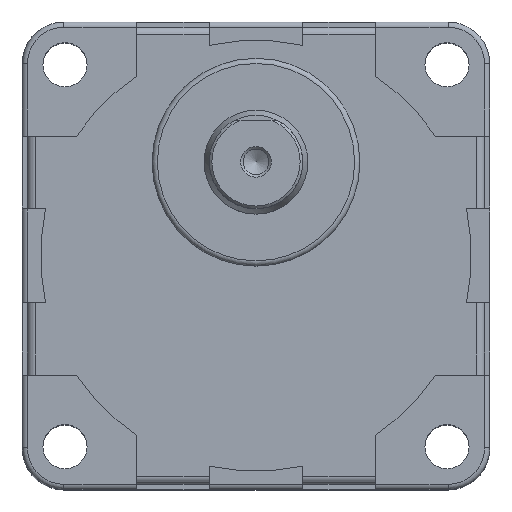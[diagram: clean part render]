
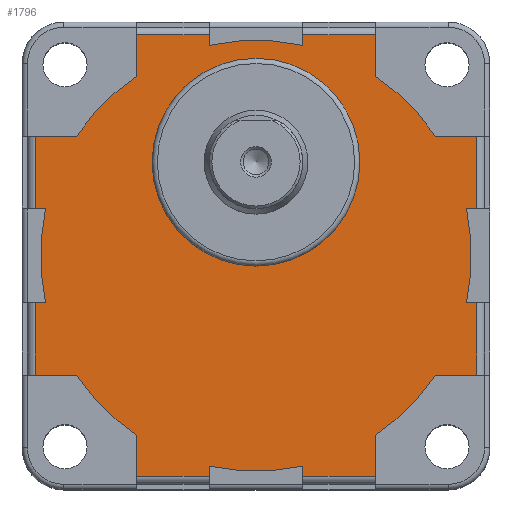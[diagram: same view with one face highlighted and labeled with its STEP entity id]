
A CAD part, top view. The second image highlights one B-rep face of the part: STEP entity #1796.
In plain terms, the highlighted planar face has unit normal (0, 0, 1).
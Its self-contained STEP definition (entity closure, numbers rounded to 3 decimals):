
#45=FACE_BOUND('',#334,.T.);
#120=CIRCLE('',#1923,20.);
#125=CIRCLE('',#1933,41.5);
#126=CIRCLE('',#1934,41.5);
#127=CIRCLE('',#1935,41.5);
#128=CIRCLE('',#1936,41.5);
#129=CIRCLE('',#1937,41.5);
#130=CIRCLE('',#1938,41.5);
#131=CIRCLE('',#1939,41.5);
#132=CIRCLE('',#1940,41.5);
#210=FACE_OUTER_BOUND('',#333,.T.);
#333=EDGE_LOOP('',(#1270,#1271,#1272,#1273,#1274,#1275,#1276,#1277,#1278,
#1279,#1280,#1281,#1282,#1283,#1284,#1285,#1286,#1287,#1288,#1289,#1290,
#1291,#1292,#1293,#1294,#1295,#1296,#1297,#1298,#1299,#1300,#1301));
#334=EDGE_LOOP('',(#1302));
#432=LINE('',#2738,#599);
#436=LINE('',#2750,#603);
#438=LINE('',#2756,#605);
#439=LINE('',#2760,#606);
#440=LINE('',#2762,#607);
#441=LINE('',#2764,#608);
#442=LINE('',#2768,#609);
#443=LINE('',#2770,#610);
#444=LINE('',#2772,#611);
#445=LINE('',#2776,#612);
#446=LINE('',#2778,#613);
#447=LINE('',#2780,#614);
#448=LINE('',#2784,#615);
#449=LINE('',#2786,#616);
#450=LINE('',#2788,#617);
#451=LINE('',#2792,#618);
#452=LINE('',#2794,#619);
#453=LINE('',#2796,#620);
#454=LINE('',#2800,#621);
#455=LINE('',#2802,#622);
#456=LINE('',#2804,#623);
#457=LINE('',#2807,#624);
#458=LINE('',#2809,#625);
#459=LINE('',#2812,#626);
#599=VECTOR('',#2184,14.);
#603=VECTOR('',#2194,14.);
#605=VECTOR('',#2200,7.957);
#606=VECTOR('',#2203,7.957);
#607=VECTOR('',#2204,14.);
#608=VECTOR('',#2205,1.988);
#609=VECTOR('',#2208,1.988);
#610=VECTOR('',#2209,14.);
#611=VECTOR('',#2210,7.957);
#612=VECTOR('',#2213,7.957);
#613=VECTOR('',#2214,14.);
#614=VECTOR('',#2215,1.988);
#615=VECTOR('',#2218,1.988);
#616=VECTOR('',#2219,14.);
#617=VECTOR('',#2220,7.957);
#618=VECTOR('',#2223,7.957);
#619=VECTOR('',#2224,14.);
#620=VECTOR('',#2225,1.988);
#621=VECTOR('',#2228,1.988);
#622=VECTOR('',#2229,14.);
#623=VECTOR('',#2230,7.957);
#624=VECTOR('',#2233,7.957);
#625=VECTOR('',#2234,1.988);
#626=VECTOR('',#2237,1.988);
#791=VERTEX_POINT('',#2727);
#792=VERTEX_POINT('',#2731);
#795=VERTEX_POINT('',#2736);
#799=VERTEX_POINT('',#2747);
#800=VERTEX_POINT('',#2749);
#802=VERTEX_POINT('',#2755);
#803=VERTEX_POINT('',#2757);
#804=VERTEX_POINT('',#2759);
#805=VERTEX_POINT('',#2761);
#806=VERTEX_POINT('',#2763);
#807=VERTEX_POINT('',#2765);
#808=VERTEX_POINT('',#2767);
#809=VERTEX_POINT('',#2769);
#810=VERTEX_POINT('',#2771);
#811=VERTEX_POINT('',#2773);
#812=VERTEX_POINT('',#2775);
#813=VERTEX_POINT('',#2777);
#814=VERTEX_POINT('',#2779);
#815=VERTEX_POINT('',#2781);
#816=VERTEX_POINT('',#2783);
#817=VERTEX_POINT('',#2785);
#818=VERTEX_POINT('',#2787);
#819=VERTEX_POINT('',#2789);
#820=VERTEX_POINT('',#2791);
#821=VERTEX_POINT('',#2793);
#822=VERTEX_POINT('',#2795);
#823=VERTEX_POINT('',#2797);
#824=VERTEX_POINT('',#2799);
#825=VERTEX_POINT('',#2801);
#826=VERTEX_POINT('',#2803);
#827=VERTEX_POINT('',#2805);
#828=VERTEX_POINT('',#2808);
#829=VERTEX_POINT('',#2810);
#973=EDGE_CURVE('',#791,#791,#120,.T.);
#977=EDGE_CURVE('',#795,#792,#432,.T.);
#982=EDGE_CURVE('',#799,#800,#436,.T.);
#985=EDGE_CURVE('',#795,#802,#438,.T.);
#986=EDGE_CURVE('',#803,#802,#125,.T.);
#987=EDGE_CURVE('',#804,#803,#439,.T.);
#988=EDGE_CURVE('',#805,#804,#440,.T.);
#989=EDGE_CURVE('',#806,#805,#441,.T.);
#990=EDGE_CURVE('',#807,#806,#126,.T.);
#991=EDGE_CURVE('',#807,#808,#442,.T.);
#992=EDGE_CURVE('',#809,#808,#443,.T.);
#993=EDGE_CURVE('',#809,#810,#444,.T.);
#994=EDGE_CURVE('',#811,#810,#127,.T.);
#995=EDGE_CURVE('',#812,#811,#445,.T.);
#996=EDGE_CURVE('',#813,#812,#446,.T.);
#997=EDGE_CURVE('',#814,#813,#447,.T.);
#998=EDGE_CURVE('',#815,#814,#128,.T.);
#999=EDGE_CURVE('',#815,#816,#448,.T.);
#1000=EDGE_CURVE('',#817,#816,#449,.T.);
#1001=EDGE_CURVE('',#817,#818,#450,.T.);
#1002=EDGE_CURVE('',#819,#818,#129,.T.);
#1003=EDGE_CURVE('',#820,#819,#451,.T.);
#1004=EDGE_CURVE('',#821,#820,#452,.T.);
#1005=EDGE_CURVE('',#822,#821,#453,.T.);
#1006=EDGE_CURVE('',#823,#822,#130,.T.);
#1007=EDGE_CURVE('',#823,#824,#454,.T.);
#1008=EDGE_CURVE('',#825,#824,#455,.T.);
#1009=EDGE_CURVE('',#825,#826,#456,.T.);
#1010=EDGE_CURVE('',#827,#826,#131,.T.);
#1011=EDGE_CURVE('',#800,#827,#457,.T.);
#1012=EDGE_CURVE('',#828,#799,#458,.T.);
#1013=EDGE_CURVE('',#829,#828,#132,.T.);
#1014=EDGE_CURVE('',#829,#792,#459,.T.);
#1270=ORIENTED_EDGE('',*,*,#977,.F.);
#1271=ORIENTED_EDGE('',*,*,#985,.T.);
#1272=ORIENTED_EDGE('',*,*,#986,.F.);
#1273=ORIENTED_EDGE('',*,*,#987,.F.);
#1274=ORIENTED_EDGE('',*,*,#988,.F.);
#1275=ORIENTED_EDGE('',*,*,#989,.F.);
#1276=ORIENTED_EDGE('',*,*,#990,.F.);
#1277=ORIENTED_EDGE('',*,*,#991,.T.);
#1278=ORIENTED_EDGE('',*,*,#992,.F.);
#1279=ORIENTED_EDGE('',*,*,#993,.T.);
#1280=ORIENTED_EDGE('',*,*,#994,.F.);
#1281=ORIENTED_EDGE('',*,*,#995,.F.);
#1282=ORIENTED_EDGE('',*,*,#996,.F.);
#1283=ORIENTED_EDGE('',*,*,#997,.F.);
#1284=ORIENTED_EDGE('',*,*,#998,.F.);
#1285=ORIENTED_EDGE('',*,*,#999,.T.);
#1286=ORIENTED_EDGE('',*,*,#1000,.F.);
#1287=ORIENTED_EDGE('',*,*,#1001,.T.);
#1288=ORIENTED_EDGE('',*,*,#1002,.F.);
#1289=ORIENTED_EDGE('',*,*,#1003,.F.);
#1290=ORIENTED_EDGE('',*,*,#1004,.F.);
#1291=ORIENTED_EDGE('',*,*,#1005,.F.);
#1292=ORIENTED_EDGE('',*,*,#1006,.F.);
#1293=ORIENTED_EDGE('',*,*,#1007,.T.);
#1294=ORIENTED_EDGE('',*,*,#1008,.F.);
#1295=ORIENTED_EDGE('',*,*,#1009,.T.);
#1296=ORIENTED_EDGE('',*,*,#1010,.F.);
#1297=ORIENTED_EDGE('',*,*,#1011,.F.);
#1298=ORIENTED_EDGE('',*,*,#982,.F.);
#1299=ORIENTED_EDGE('',*,*,#1012,.F.);
#1300=ORIENTED_EDGE('',*,*,#1013,.F.);
#1301=ORIENTED_EDGE('',*,*,#1014,.T.);
#1302=ORIENTED_EDGE('',*,*,#973,.F.);
#1729=PLANE('',#1932);
#1796=ADVANCED_FACE('',(#210,#45),#1729,.T.);
#1923=AXIS2_PLACEMENT_3D('',#2728,#2173,#2174);
#1932=AXIS2_PLACEMENT_3D('',#2754,#2198,#2199);
#1933=AXIS2_PLACEMENT_3D('',#2758,#2201,#2202);
#1934=AXIS2_PLACEMENT_3D('',#2766,#2206,#2207);
#1935=AXIS2_PLACEMENT_3D('',#2774,#2211,#2212);
#1936=AXIS2_PLACEMENT_3D('',#2782,#2216,#2217);
#1937=AXIS2_PLACEMENT_3D('',#2790,#2221,#2222);
#1938=AXIS2_PLACEMENT_3D('',#2798,#2226,#2227);
#1939=AXIS2_PLACEMENT_3D('',#2806,#2231,#2232);
#1940=AXIS2_PLACEMENT_3D('',#2811,#2235,#2236);
#2173=DIRECTION('center_axis',(0.,0.,1.));
#2174=DIRECTION('ref_axis',(-1.,0.,0.));
#2184=DIRECTION('',(0.,-1.,0.));
#2194=DIRECTION('',(0.,-1.,0.));
#2198=DIRECTION('center_axis',(0.,0.,1.));
#2199=DIRECTION('ref_axis',(1.,0.,0.));
#2200=DIRECTION('',(-1.,0.,0.));
#2201=DIRECTION('center_axis',(0.,0.,-1.));
#2202=DIRECTION('ref_axis',(-1.,0.,0.));
#2203=DIRECTION('',(0.,-1.,0.));
#2204=DIRECTION('',(1.,0.,0.));
#2205=DIRECTION('',(0.,1.,0.));
#2206=DIRECTION('center_axis',(0.,0.,-1.));
#2207=DIRECTION('ref_axis',(-1.,0.,0.));
#2208=DIRECTION('',(0.,1.,0.));
#2209=DIRECTION('',(1.,0.,0.));
#2210=DIRECTION('',(0.,-1.,0.));
#2211=DIRECTION('center_axis',(0.,0.,-1.));
#2212=DIRECTION('ref_axis',(-1.,0.,0.));
#2213=DIRECTION('',(1.,0.,0.));
#2214=DIRECTION('',(0.,1.,0.));
#2215=DIRECTION('',(-1.,0.,0.));
#2216=DIRECTION('center_axis',(0.,0.,-1.));
#2217=DIRECTION('ref_axis',(-1.,0.,0.));
#2218=DIRECTION('',(-1.,0.,0.));
#2219=DIRECTION('',(0.,1.,0.));
#2220=DIRECTION('',(1.,0.,0.));
#2221=DIRECTION('center_axis',(0.,0.,-1.));
#2222=DIRECTION('ref_axis',(-1.,0.,0.));
#2223=DIRECTION('',(0.,1.,0.));
#2224=DIRECTION('',(-1.,0.,0.));
#2225=DIRECTION('',(0.,-1.,0.));
#2226=DIRECTION('center_axis',(0.,0.,-1.));
#2227=DIRECTION('ref_axis',(-1.,0.,0.));
#2228=DIRECTION('',(0.,-1.,0.));
#2229=DIRECTION('',(-1.,0.,0.));
#2230=DIRECTION('',(0.,1.,0.));
#2231=DIRECTION('center_axis',(0.,0.,-1.));
#2232=DIRECTION('ref_axis',(-1.,0.,0.));
#2233=DIRECTION('',(-1.,0.,0.));
#2234=DIRECTION('',(1.,0.,0.));
#2235=DIRECTION('center_axis',(0.,0.,-1.));
#2236=DIRECTION('ref_axis',(-1.,0.,0.));
#2237=DIRECTION('',(1.,0.,0.));
#2727=CARTESIAN_POINT('',(20.,18.,57.2));
#2728=CARTESIAN_POINT('Origin',(0.,18.,57.2));
#2731=CARTESIAN_POINT('',(42.5,9.,57.2));
#2736=CARTESIAN_POINT('',(42.5,23.,57.2));
#2738=CARTESIAN_POINT('',(42.5,11.5,57.2));
#2747=CARTESIAN_POINT('',(42.5,-9.,57.2));
#2749=CARTESIAN_POINT('',(42.5,-23.,57.2));
#2750=CARTESIAN_POINT('',(42.5,-11.5,57.2));
#2754=CARTESIAN_POINT('Origin',(0.,0.,
57.2));
#2755=CARTESIAN_POINT('',(34.543,23.,57.2));
#2756=CARTESIAN_POINT('',(34.543,23.,57.2));
#2757=CARTESIAN_POINT('',(23.,34.543,57.2));
#2758=CARTESIAN_POINT('Origin',(0.,0.,57.2));
#2759=CARTESIAN_POINT('',(23.,42.5,57.2));
#2760=CARTESIAN_POINT('',(23.,34.543,57.2));
#2761=CARTESIAN_POINT('',(9.,42.5,57.2));
#2762=CARTESIAN_POINT('',(11.5,42.5,57.2));
#2763=CARTESIAN_POINT('',(9.,40.512,57.2));
#2764=CARTESIAN_POINT('',(9.,45.,57.2));
#2765=CARTESIAN_POINT('',(-9.,40.512,57.2));
#2766=CARTESIAN_POINT('Origin',(0.,0.,57.2));
#2767=CARTESIAN_POINT('',(-9.,42.5,57.2));
#2768=CARTESIAN_POINT('',(-9.,45.,57.2));
#2769=CARTESIAN_POINT('',(-23.,42.5,57.2));
#2770=CARTESIAN_POINT('',(-11.5,42.5,57.2));
#2771=CARTESIAN_POINT('',(-23.,34.543,57.2));
#2772=CARTESIAN_POINT('',(-23.,34.543,57.2));
#2773=CARTESIAN_POINT('',(-34.543,23.,57.2));
#2774=CARTESIAN_POINT('Origin',(0.,0.,57.2));
#2775=CARTESIAN_POINT('',(-42.5,23.,57.2));
#2776=CARTESIAN_POINT('',(-34.543,23.,57.2));
#2777=CARTESIAN_POINT('',(-42.5,9.,57.2));
#2778=CARTESIAN_POINT('',(-42.5,11.5,57.2));
#2779=CARTESIAN_POINT('',(-40.512,9.,57.2));
#2780=CARTESIAN_POINT('',(-45.,9.,57.2));
#2781=CARTESIAN_POINT('',(-40.512,-9.,57.2));
#2782=CARTESIAN_POINT('Origin',(0.,0.,57.2));
#2783=CARTESIAN_POINT('',(-42.5,-9.,57.2));
#2784=CARTESIAN_POINT('',(-45.,-9.,57.2));
#2785=CARTESIAN_POINT('',(-42.5,-23.,57.2));
#2786=CARTESIAN_POINT('',(-42.5,-11.5,57.2));
#2787=CARTESIAN_POINT('',(-34.543,-23.,57.2));
#2788=CARTESIAN_POINT('',(-34.543,-23.,57.2));
#2789=CARTESIAN_POINT('',(-23.,-34.543,57.2));
#2790=CARTESIAN_POINT('Origin',(0.,0.,57.2));
#2791=CARTESIAN_POINT('',(-23.,-42.5,57.2));
#2792=CARTESIAN_POINT('',(-23.,-34.543,57.2));
#2793=CARTESIAN_POINT('',(-9.,-42.5,57.2));
#2794=CARTESIAN_POINT('',(-11.5,-42.5,57.2));
#2795=CARTESIAN_POINT('',(-9.,-40.512,57.2));
#2796=CARTESIAN_POINT('',(-9.,-45.,57.2));
#2797=CARTESIAN_POINT('',(9.,-40.512,57.2));
#2798=CARTESIAN_POINT('Origin',(0.,0.,57.2));
#2799=CARTESIAN_POINT('',(9.,-42.5,57.2));
#2800=CARTESIAN_POINT('',(9.,-45.,57.2));
#2801=CARTESIAN_POINT('',(23.,-42.5,57.2));
#2802=CARTESIAN_POINT('',(11.5,-42.5,57.2));
#2803=CARTESIAN_POINT('',(23.,-34.543,57.2));
#2804=CARTESIAN_POINT('',(23.,-34.543,57.2));
#2805=CARTESIAN_POINT('',(34.543,-23.,57.2));
#2806=CARTESIAN_POINT('Origin',(0.,0.,57.2));
#2807=CARTESIAN_POINT('',(34.543,-23.,57.2));
#2808=CARTESIAN_POINT('',(40.512,-9.,57.2));
#2809=CARTESIAN_POINT('',(45.,-9.,57.2));
#2810=CARTESIAN_POINT('',(40.512,9.,57.2));
#2811=CARTESIAN_POINT('Origin',(0.,0.,57.2));
#2812=CARTESIAN_POINT('',(45.,9.,57.2));
